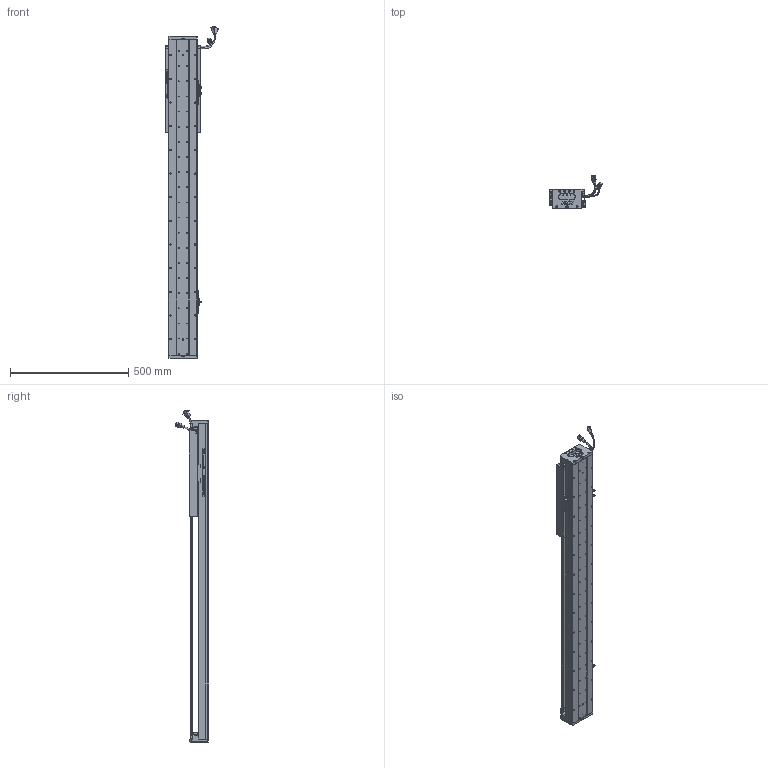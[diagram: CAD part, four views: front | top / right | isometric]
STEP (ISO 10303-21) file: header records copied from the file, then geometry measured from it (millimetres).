
FILE_DESCRIPTION (( 'STEP AP203' ), '1' );
FILE_NAME ('Z5-RY120D-1-L500-B-K.SLDASM_0900.step', '2021-05-17T06:22:00', ( '盈信电脑' ), ( '东莞市道滘镇水果街19号' ), 'SwSTEP 2.0', 'SolidWorks 2016', '' );
FILE_SCHEMA (( 'CONFIG_CONTROL_DESIGN' ));
Length unit declared in the file: millimetre
Products named in the file (37): Z-RY120D詩湍狟揤裔; Z5-RY120D-1-L500-B-K.SLDASM_0900; SEAL; SCREW-M1.7-1; 120-Z-臏賑輸盄裔(21遴); Z5-RY120-500-倰第菁釱_0900; 140雄赽晤鎢ん堤盄; SHIELDPLATE; COVER; SEAL-Part-1; Z5-RY120-L500詩湍100mm遵_0900; SCREW-M1.6-2; HARNESS; 榋妏寠巭燃_暯_M2_2; COVER-Part-1; LABEL-Part-1; HARNESS-Part-1; SCREW-M1.7; SCREW-M1.6-3; SCALE; Z-120詩湍傷裔啣; SCALE-Part-1; LABEL; SCALE-Part-2; 覜茼ん672; 140蚥薯蝶輸; 672嫖萇羲壽假蚾釱; Z-RY120D詩湍奻揤裔; 080黍杅芛假蚾釱21遴; SCREW-M1.6-1; Z5-RY120铝滑块（21款）; PBU_SHEET; RY100FB-遵嫖萇覜茼え; HARNESS-Part-2; SCREW-M1.6; PSLH080_PSLF2; HOLDER0
Assembly tree (43 placements, depth 4):
  Z5-RY120D-1-L500-B-K.SLDASM_0900
    Z5-RY120-500-倰第菁釱_0900
    覜茼ん672  x3
    672嫖萇羲壽假蚾釱  x2
    Z5-RY120铝滑块（21款）
    PSLH080_PSLF2
      SCALE
        SCALE-Part-1
        SCALE-Part-2
      HARNESS
        HARNESS-Part-1
        HARNESS-Part-2
      LABEL
        LABEL-Part-1
      COVER
        COVER-Part-1
      SEAL
        SEAL-Part-1
      榋妏寠巭燃_暯_M2_2
      SHIELDPLATE
      SCREW-M1.7
      SCREW-M1.7-1
      PBU_SHEET
      SCREW-M1.6
      SCREW-M1.6-1
      SCREW-M1.6-2
      SCREW-M1.6-3
      HOLDER0
    080黍杅芛假蚾釱21遴
    120-Z-臏賑輸盄裔(21遴)
    140雄赽晤鎢ん堤盄
    140蚥薯蝶輸  x2
    RY100FB-遵嫖萇覜茼え
    Z-120詩湍傷裔啣  x2
    Z-RY120D詩湍奻揤裔  x2
    Z-RY120D詩湍狟揤裔  x2
    Z5-RY120-L500詩湍100mm遵_0900
Bounding box: 222.88 x 140.94 x 1403.99 mm (x, y, z)
Volume: 4063101.6 mm3; surface area: 1315595 mm2
Topology: 38 solids, 38 shells, 3033 faces, 8271 edges, 5226 vertices
Faces by surface type: cylinder 1459, plane 1154, cone 298, torus 69, bspline 53
Entity records: 93586 total; most frequent: CARTESIAN_POINT 25675, ORIENTED_EDGE 13470, DIRECTION 13123, EDGE_CURVE 6735, AXIS2_PLACEMENT_3D 4840, VERTEX_POINT 4346, LINE 3443, VECTOR 3443
